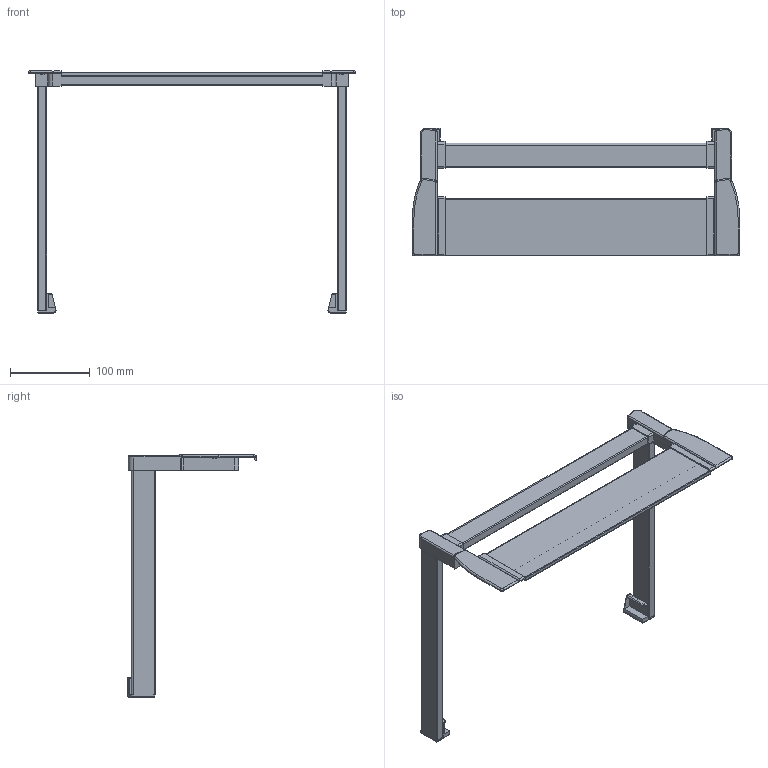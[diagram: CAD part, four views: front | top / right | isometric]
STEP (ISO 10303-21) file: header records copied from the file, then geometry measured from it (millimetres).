
FILE_DESCRIPTION (( 'STEP AP214' ), '1' );
FILE_NAME ('1_P620_NL 300_KAB 450_16er KS_.step', '2009-09-16T06:29:14', ( 'Waldinger Reinhard' ), ( 'Grass GmbH' ), 'SwSTEP 2.0', 'SolidWorks 2009', '' );
FILE_SCHEMA (( 'AUTOMOTIVE_DESIGN' ));
Length unit declared in the file: millimetre
Products named in the file (1): 1_P620_NL 300_KAB 450_16er KS_
Bounding box: 409.6 x 160.5 x 302.8 mm (x, y, z)
Volume: 683722.1 mm3; surface area: 164471.3 mm2
Topology: 1 solids, 1 shells, 220 faces, 578 edges, 364 vertices
Faces by surface type: plane 97, cylinder 91, torus 28, bspline 2, sphere 2
Entity records: 7004 total; most frequent: CARTESIAN_POINT 1345, DIRECTION 1198, ORIENTED_EDGE 1152, EDGE_CURVE 576, AXIS2_PLACEMENT_3D 433, VERTEX_POINT 364, LINE 332, VECTOR 332
